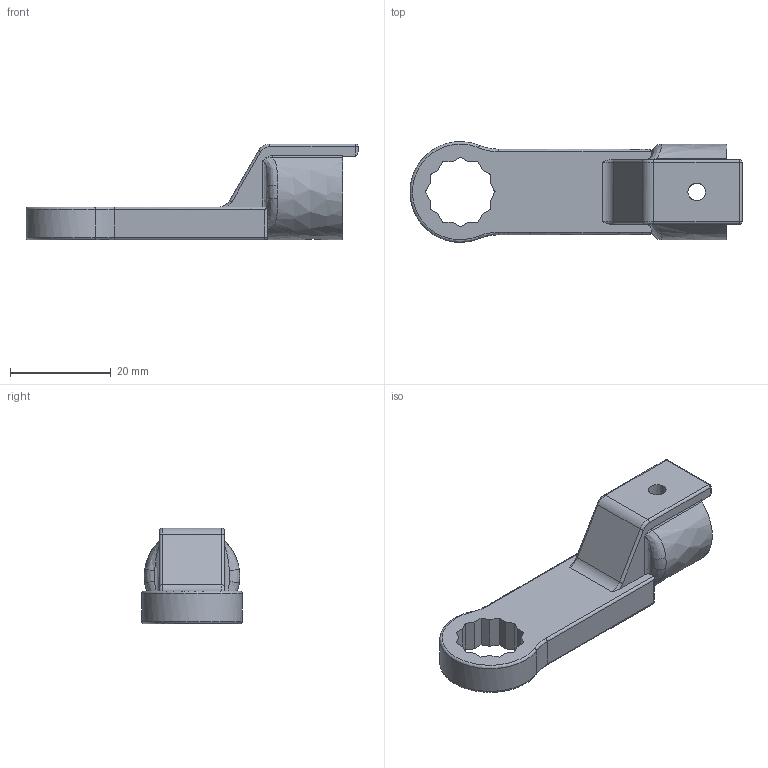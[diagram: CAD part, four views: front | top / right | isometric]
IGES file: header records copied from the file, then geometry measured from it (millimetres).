
Global section: file name: RH12DX12; native system: Autodesk Inventor 2016; preprocessor: unknown; author: Q532; date: 20151110.160217; units: millimetre
Bounding box: 65.98 x 20 x 19 mm (x, y, z)
Volume: 7838.1 mm3; surface area: 4437.1 mm2
Topology: 1 solids, 1 shells, 94 faces, 248 edges, 150 vertices
Faces by surface type: bspline 94
